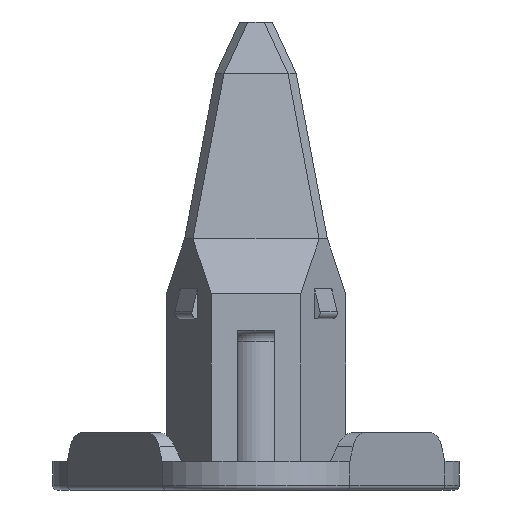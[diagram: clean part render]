
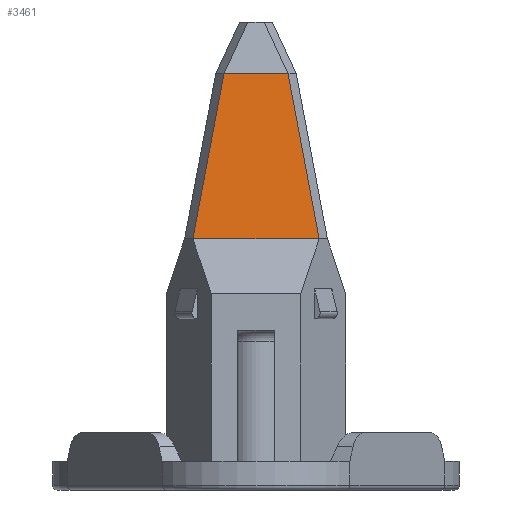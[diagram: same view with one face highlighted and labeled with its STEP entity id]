
A CAD part, front view. The second image highlights one B-rep face of the part: STEP entity #3461.
In plain terms, the highlighted planar face has unit normal (0, -0.994, 0.108).
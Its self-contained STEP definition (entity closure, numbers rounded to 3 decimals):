
#1318=DIRECTION('',(1.,0.,0.));
#1319=VECTOR('',#1318,2.845);
#1320=CARTESIAN_POINT('',(-1.422,-1.245,-2.286));
#1321=LINE('',#1320,#1319);
#1326=DIRECTION('',(0.184,-0.106,-0.977));
#1327=VECTOR('',#1326,7.538);
#1328=CARTESIAN_POINT('',(1.422,-1.245,-2.286));
#1329=LINE('',#1328,#1327);
#1330=DIRECTION('',(1.,0.,0.));
#1331=VECTOR('',#1330,5.617);
#1332=CARTESIAN_POINT('',(-2.808,-2.045,-9.652));
#1333=LINE('',#1332,#1331);
#1334=DIRECTION('',(-0.184,-0.106,-0.977));
#1335=VECTOR('',#1334,7.538);
#1336=CARTESIAN_POINT('',(-1.422,-1.245,-2.286));
#1337=LINE('',#1336,#1335);
#1691=CARTESIAN_POINT('',(1.422,-1.245,-2.286));
#1693=VERTEX_POINT('',#1691);
#1748=CARTESIAN_POINT('',(-1.422,-1.245,-2.286));
#1749=CARTESIAN_POINT('',(-2.808,-2.045,-9.652));
#1750=VERTEX_POINT('',#1748);
#1751=VERTEX_POINT('',#1749);
#1774=CARTESIAN_POINT('',(2.808,-2.045,-9.652));
#1776=VERTEX_POINT('',#1774);
#3449=CARTESIAN_POINT('',(-10.859,-2.045,-9.652));
#3450=DIRECTION('',(0.,0.994,-0.108));
#3451=DIRECTION('',(0.,0.108,0.994));
#3452=AXIS2_PLACEMENT_3D('',#3449,#3450,#3451);
#3453=PLANE('',#3452);
#3454=ORIENTED_EDGE('',*,*,#3414,.T.);
#3455=ORIENTED_EDGE('',*,*,#3367,.F.);
#3457=ORIENTED_EDGE('',*,*,#3456,.F.);
#3458=ORIENTED_EDGE('',*,*,#3440,.T.);
#3459=EDGE_LOOP('',(#3454,#3455,#3457,#3458));
#3460=FACE_OUTER_BOUND('',#3459,.F.);
#3461=ADVANCED_FACE('',(#3460),#3453,.F.);
#3367=EDGE_CURVE('',#1751,#1776,#1333,.T.);
#3414=EDGE_CURVE('',#1693,#1776,#1329,.T.);
#3440=EDGE_CURVE('',#1750,#1693,#1321,.T.);
#3456=EDGE_CURVE('',#1750,#1751,#1337,.T.);
